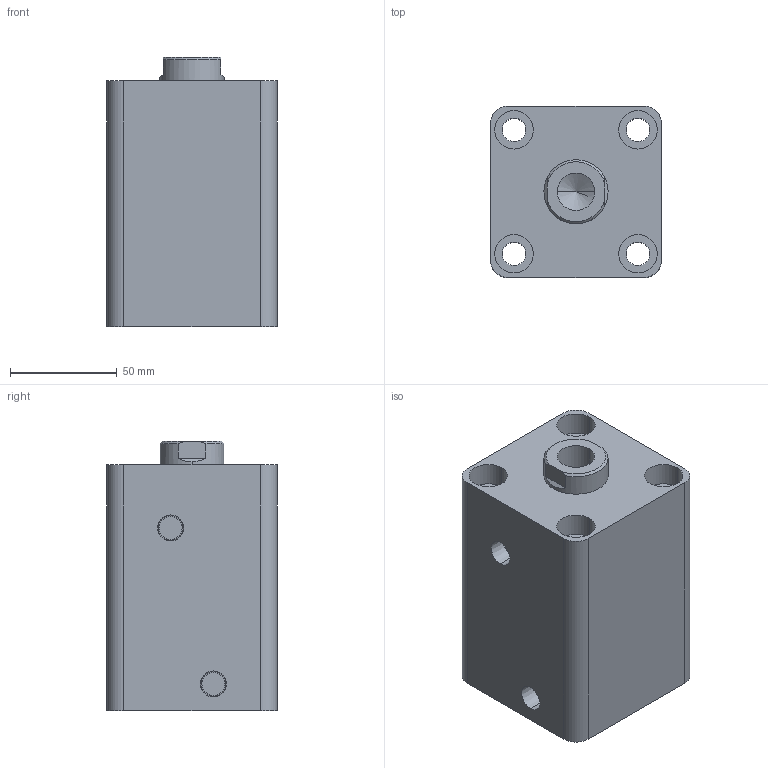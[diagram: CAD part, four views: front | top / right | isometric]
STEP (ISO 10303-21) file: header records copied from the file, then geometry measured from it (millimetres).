
FILE_DESCRIPTION (( 'STEP AP203' ), '1' );
FILE_NAME ('HTB-SD50-55N.STEP', '2019-10-07T07:10:06', ( '微软用户' ), ( '微软中国' ), 'SwSTEP 2.0', 'SolidWorks 2012', '' );
FILE_SCHEMA (( 'CONFIG_CONTROL_DESIGN' ));
Length unit declared in the file: millimetre
Products named in the file (3): HTB-SD50-55N; HTB-SD50-55N活塞杆; HTB-SD50-55掛极
Assembly tree (2 placements, depth 2):
  HTB-SD50-55N
    HTB-SD50-55掛极
    HTB-SD50-55N活塞杆
Bounding box: 80 x 80 x 126 mm (x, y, z)
Volume: 601500.8 mm3; surface area: 100247.3 mm2
Topology: 2 solids, 2 shells, 83 faces, 184 edges, 119 vertices
Faces by surface type: cylinder 42, plane 27, cone 8, torus 6
Entity records: 2655 total; most frequent: DIRECTION 456, CARTESIAN_POINT 417, ORIENTED_EDGE 364, AXIS2_PLACEMENT_3D 194, EDGE_CURVE 182, VERTEX_POINT 119, EDGE_LOOP 107, CIRCLE 106
